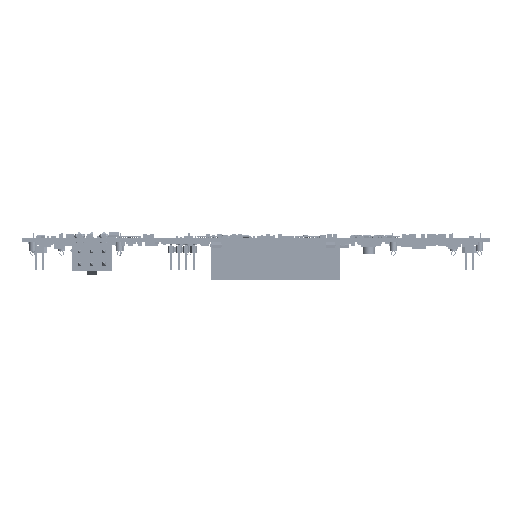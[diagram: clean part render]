
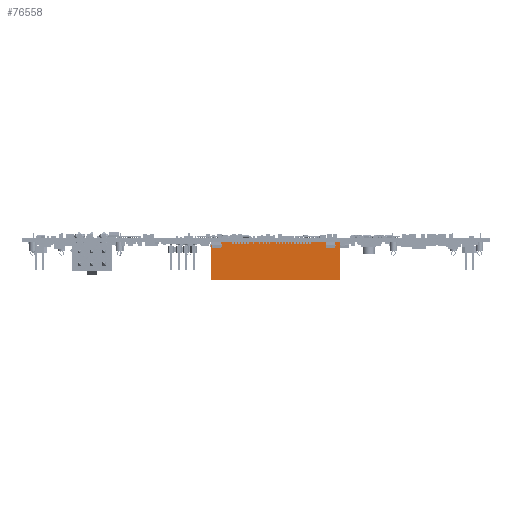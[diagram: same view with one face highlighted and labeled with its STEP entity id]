
A CAD part, front view. The second image highlights one B-rep face of the part: STEP entity #76558.
In plain terms, the highlighted planar face has unit normal (0, -1, 0).
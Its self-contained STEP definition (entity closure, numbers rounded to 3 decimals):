
#76533 = VERTEX_POINT('',#76534);
#76534 = CARTESIAN_POINT('',(-22.,-4.6,13.15));
#76540 = EDGE_CURVE('',#76541,#76533,#76543,.T.);
#76541 = VERTEX_POINT('',#76542);
#76542 = CARTESIAN_POINT('',(-22.,-4.6,0.));
#76543 = LINE('',#76544,#76545);
#76544 = CARTESIAN_POINT('',(-22.,-4.6,0.));
#76545 = VECTOR('',#76546,1.);
#76546 = DIRECTION('',(0.,0.,1.));
#76558 = ADVANCED_FACE('',(#76559),#76584,.F.);
#76559 = FACE_BOUND('',#76560,.F.);
#76560 = EDGE_LOOP('',(#76561,#76562,#76570,#76578));
#76561 = ORIENTED_EDGE('',*,*,#76540,.T.);
#76562 = ORIENTED_EDGE('',*,*,#76563,.T.);
#76563 = EDGE_CURVE('',#76533,#76564,#76566,.T.);
#76564 = VERTEX_POINT('',#76565);
#76565 = CARTESIAN_POINT('',(22.,-4.6,13.15));
#76566 = LINE('',#76567,#76568);
#76567 = CARTESIAN_POINT('',(-22.,-4.6,13.15));
#76568 = VECTOR('',#76569,1.);
#76569 = DIRECTION('',(1.,0.,0.));
#76570 = ORIENTED_EDGE('',*,*,#76571,.F.);
#76571 = EDGE_CURVE('',#76572,#76564,#76574,.T.);
#76572 = VERTEX_POINT('',#76573);
#76573 = CARTESIAN_POINT('',(22.,-4.6,0.));
#76574 = LINE('',#76575,#76576);
#76575 = CARTESIAN_POINT('',(22.,-4.6,0.));
#76576 = VECTOR('',#76577,1.);
#76577 = DIRECTION('',(0.,0.,1.));
#76578 = ORIENTED_EDGE('',*,*,#76579,.F.);
#76579 = EDGE_CURVE('',#76541,#76572,#76580,.T.);
#76580 = LINE('',#76581,#76582);
#76581 = CARTESIAN_POINT('',(-22.,-4.6,0.));
#76582 = VECTOR('',#76583,1.);
#76583 = DIRECTION('',(1.,0.,0.));
#76584 = PLANE('',#76585);
#76585 = AXIS2_PLACEMENT_3D('',#76586,#76587,#76588);
#76586 = CARTESIAN_POINT('',(-22.,-4.6,0.));
#76587 = DIRECTION('',(0.,1.,0.));
#76588 = DIRECTION('',(1.,0.,0.));
